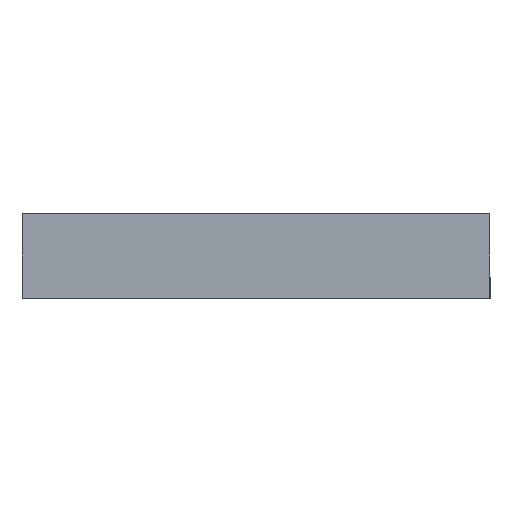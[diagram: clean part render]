
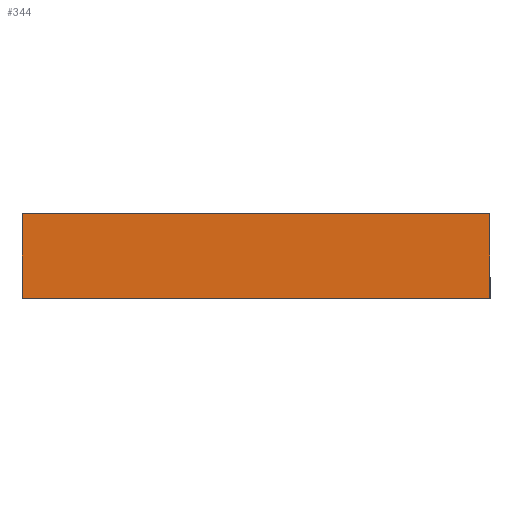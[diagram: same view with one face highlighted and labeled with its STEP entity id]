
A CAD part, left-side view. The second image highlights one B-rep face of the part: STEP entity #344.
In plain terms, the highlighted planar face has unit normal (-1, 0, 0).
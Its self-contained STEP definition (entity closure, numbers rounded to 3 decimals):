
#116 = EDGE_CURVE ( 'NONE', #711, #1005, #357, .T. ) ;
#117 = VECTOR ( 'NONE', #1082, 1000. ) ;
#123 = LINE ( 'NONE', #1032, #301 ) ;
#125 = CARTESIAN_POINT ( 'NONE',  ( -828., 50., 0. ) ) ;
#145 = ORIENTED_EDGE ( 'NONE', *, *, #116, .T. ) ;
#167 = EDGE_LOOP ( 'NONE', ( #145, #991, #597, #393 ) ) ;
#275 = DIRECTION ( 'NONE',  ( 0., -1., 0. ) ) ;
#301 = VECTOR ( 'NONE', #275, 1000. ) ;
#321 = CARTESIAN_POINT ( 'NONE',  ( -828., -50., 18. ) ) ;
#344 = ADVANCED_FACE ( 'NONE', ( #491 ), #826, .F. ) ;
#357 = LINE ( 'NONE', #608, #378 ) ;
#378 = VECTOR ( 'NONE', #437, 1000. ) ;
#393 = ORIENTED_EDGE ( 'NONE', *, *, #479, .T. ) ;
#397 = DIRECTION ( 'NONE',  ( 1., 0., 0. ) ) ;
#437 = DIRECTION ( 'NONE',  ( 0., -1., 0. ) ) ;
#455 = VERTEX_POINT ( 'NONE', #988 ) ;
#479 = EDGE_CURVE ( 'NONE', #455, #711, #752, .T. ) ;
#490 = VERTEX_POINT ( 'NONE', #321 ) ;
#491 = FACE_OUTER_BOUND ( 'NONE', #167, .T. ) ;
#498 = AXIS2_PLACEMENT_3D ( 'NONE', #731, #397, #1067 ) ;
#597 = ORIENTED_EDGE ( 'NONE', *, *, #1065, .F. ) ;
#608 = CARTESIAN_POINT ( 'NONE',  ( -828., 50., 0. ) ) ;
#622 = LINE ( 'NONE', #702, #1001 ) ;
#678 = CARTESIAN_POINT ( 'NONE',  ( -828., 50., 18. ) ) ;
#702 = CARTESIAN_POINT ( 'NONE',  ( -828., -50., 18. ) ) ;
#711 = VERTEX_POINT ( 'NONE', #125 ) ;
#714 = DIRECTION ( 'NONE',  ( 0., 0., -1. ) ) ;
#731 = CARTESIAN_POINT ( 'NONE',  ( -828., 50., 18. ) ) ;
#752 = LINE ( 'NONE', #678, #117 ) ;
#826 = PLANE ( 'NONE',  #498 ) ;
#878 = CARTESIAN_POINT ( 'NONE',  ( -828., -50., 0. ) ) ;
#955 = EDGE_CURVE ( 'NONE', #490, #1005, #622, .T. ) ;
#988 = CARTESIAN_POINT ( 'NONE',  ( -828., 50., 18. ) ) ;
#991 = ORIENTED_EDGE ( 'NONE', *, *, #955, .F. ) ;
#1001 = VECTOR ( 'NONE', #714, 1000. ) ;
#1005 = VERTEX_POINT ( 'NONE', #878 ) ;
#1032 = CARTESIAN_POINT ( 'NONE',  ( -828., 50., 18. ) ) ;
#1065 = EDGE_CURVE ( 'NONE', #455, #490, #123, .T. ) ;
#1067 = DIRECTION ( 'NONE',  ( 0., 0., -1. ) ) ;
#1082 = DIRECTION ( 'NONE',  ( 0., 0., -1. ) ) ;
